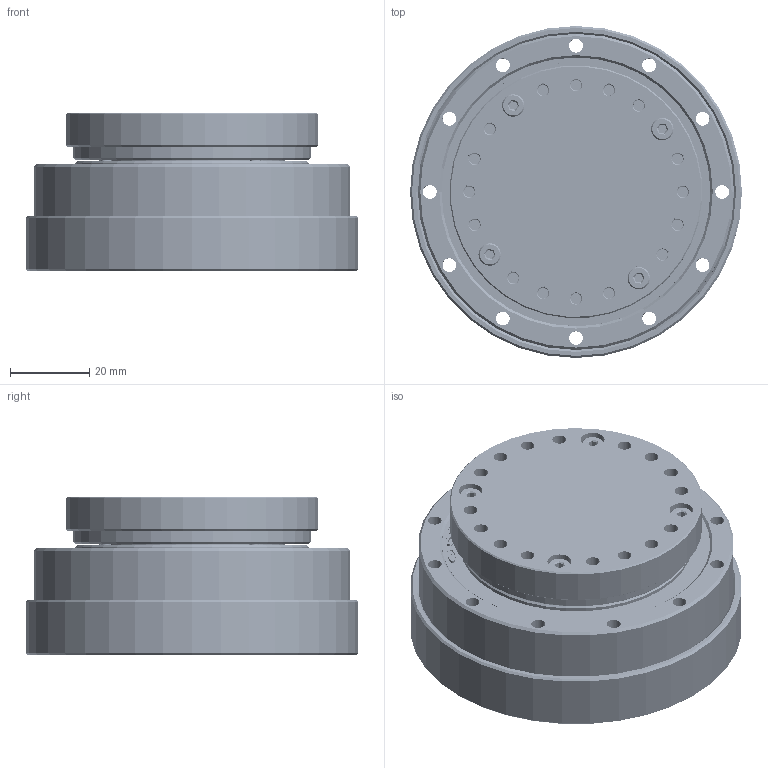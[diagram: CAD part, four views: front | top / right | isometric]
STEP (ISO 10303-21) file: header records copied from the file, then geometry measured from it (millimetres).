
FILE_DESCRIPTION (( 'STEP AP203' ), '1' );
FILE_NAME ('FA17（配60伺服）.STEP', '2026-03-08T13:36:21', ( '' ), ( '' ), 'SwSTEP 2.0', 'SolidWorks 2022', '' );
FILE_SCHEMA (( 'CONFIG_CONTROL_DESIGN' ));
Length unit declared in the file: millimetre
Products named in the file (39): FA17（配60伺服）.sldasm-Part-3; FA17（配60伺服）.sldasm-Part-34; FA17（配60伺服）.sldasm-Part-36; FA17（配60伺服）.sldasm-Part-24; FA17（配60伺服）.sldasm-Part-4; FA17（配60伺服）.sldasm-Part-1; FA17（配60伺服）.sldasm-Part-28; FA17（配60伺服）.sldasm-Part-10; FA17（配60伺服）.sldasm-Part-32; FA17（配60伺服）.sldasm-Part-2; FA17（配60伺服）.sldasm-Part-29; FA17（配60伺服）.sldasm-Part-12; FA17（配60伺服）.sldasm-Part-20; FA17（配60伺服）.sldasm-Part-27; FA17（配60伺服）.sldasm-Part-31; FA17（配60伺服）.sldasm-Part-38; FA17（配60伺服）.sldasm-Part-8; FA17（配60伺服）.sldasm-Part-35; FA17（配60伺服）.sldasm-Part-37; FA17（配60伺服）.sldasm-Part-25; FA17（配60伺服）; FA17（配60伺服）.sldasm-Part-14; FA17（配60伺服）.sldasm-Part-9; FA17（配60伺服）.sldasm-Part-15; FA17（配60伺服）.sldasm-Part-7; FA17（配60伺服）.sldasm-Part-16; FA17（配60伺服）.sldasm-Part-19; FA17（配60伺服）.sldasm-Part-21; FA17（配60伺服）.sldasm-Part-30; FA17（配60伺服）.sldasm-Part-22; FA17（配60伺服）.sldasm-Part-33; FA17（配60伺服）.sldasm-Part-17; FA17（配60伺服）.sldasm-Part-18; FA17（配60伺服）.sldasm-Part-13; FA17（配60伺服）.sldasm-Part-5; FA17（配60伺服）.sldasm-Part-23; FA17（配60伺服）.sldasm-Part-11; FA17（配60伺服）.sldasm-Part-6; FA17（配60伺服）.sldasm-Part-26
Assembly tree (44 placements, depth 2):
  FA17（配60伺服）
    FA17（配60伺服）.sldasm-Part-1  x4
    FA17（配60伺服）.sldasm-Part-2
    FA17（配60伺服）.sldasm-Part-3
    FA17（配60伺服）.sldasm-Part-4
    FA17（配60伺服）.sldasm-Part-5
    FA17（配60伺服）.sldasm-Part-6
    FA17（配60伺服）.sldasm-Part-7  x4
    FA17（配60伺服）.sldasm-Part-8
    FA17（配60伺服）.sldasm-Part-9
    FA17（配60伺服）.sldasm-Part-10
    FA17（配60伺服）.sldasm-Part-11
    FA17（配60伺服）.sldasm-Part-12
    FA17（配60伺服）.sldasm-Part-13
    FA17（配60伺服）.sldasm-Part-14
    FA17（配60伺服）.sldasm-Part-15
    FA17（配60伺服）.sldasm-Part-16
    FA17（配60伺服）.sldasm-Part-17
    FA17（配60伺服）.sldasm-Part-18
    FA17（配60伺服）.sldasm-Part-19
    FA17（配60伺服）.sldasm-Part-20
    FA17（配60伺服）.sldasm-Part-21
    FA17（配60伺服）.sldasm-Part-22
    FA17（配60伺服）.sldasm-Part-23
    FA17（配60伺服）.sldasm-Part-24
    FA17（配60伺服）.sldasm-Part-25
    FA17（配60伺服）.sldasm-Part-26
    FA17（配60伺服）.sldasm-Part-27
    FA17（配60伺服）.sldasm-Part-28
    FA17（配60伺服）.sldasm-Part-29
    FA17（配60伺服）.sldasm-Part-30
    FA17（配60伺服）.sldasm-Part-31
    FA17（配60伺服）.sldasm-Part-32
    FA17（配60伺服）.sldasm-Part-33
    FA17（配60伺服）.sldasm-Part-34
    FA17（配60伺服）.sldasm-Part-35
    FA17（配60伺服）.sldasm-Part-36
    FA17（配60伺服）.sldasm-Part-37
    FA17（配60伺服）.sldasm-Part-38
Bounding box: 84 x 84 x 40 mm (x, y, z)
Volume: 131052.6 mm3; surface area: 98213.7 mm2
Topology: 44 solids, 44 shells, 3212 faces, 8887 edges, 5808 vertices
Faces by surface type: cylinder 2360, cone 330, plane 310, bspline 132, sphere 42, torus 38
Entity records: 161743 total; most frequent: CARTESIAN_POINT 101936, ORIENTED_EDGE 12880, DIRECTION 9445, EDGE_CURVE 6440, VERTEX_POINT 4203, AXIS2_PLACEMENT_3D 3618, B_SPLINE_CURVE_WITH_KNOTS 2944, EDGE_LOOP 2693
